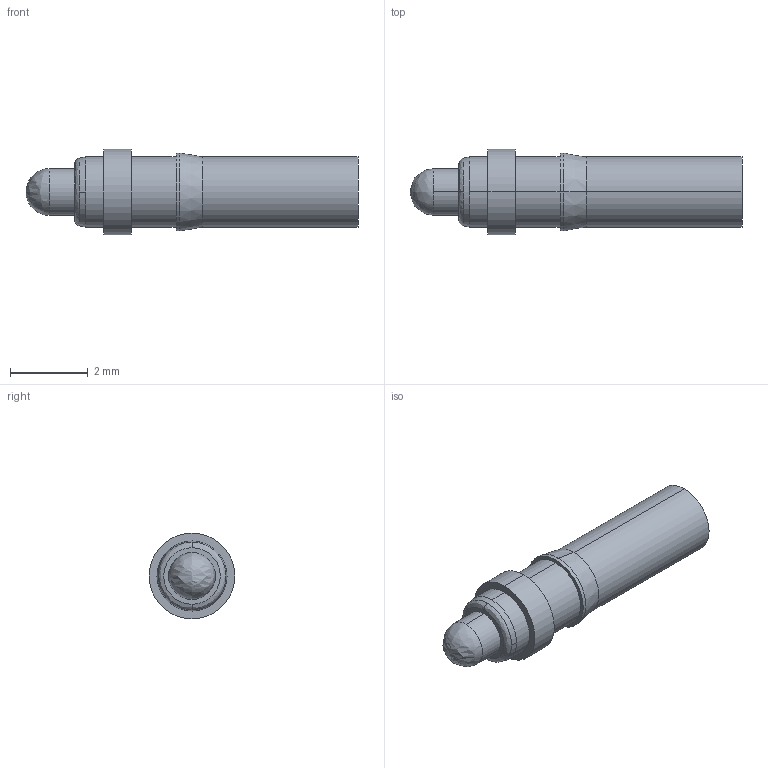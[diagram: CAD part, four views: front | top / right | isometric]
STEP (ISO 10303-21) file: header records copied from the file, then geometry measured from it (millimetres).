
FILE_DESCRIPTION (( 'STEP AP214' ), '1' );
FILE_NAME ('PD17JS.STEP', '2021-07-14T15:03:53', ( '' ), ( '' ), 'SwSTEP 2.0', 'SolidWorks 2021', '' );
FILE_SCHEMA (( 'AUTOMOTIVE_DESIGN' ));
Length unit declared in the file: millimetre
Products named in the file (1): PD17JS
Bounding box: 8.52 x 2.2 x 2.2 mm (x, y, z)
Volume: 19.5 mm3; surface area: 59.4 mm2
Topology: 1 solids, 1 shells, 28 faces, 62 edges, 37 vertices
Faces by surface type: cylinder 14, cone 6, plane 5, bspline 3
Entity records: 825 total; most frequent: CARTESIAN_POINT 175, DIRECTION 144, ORIENTED_EDGE 116, AXIS2_PLACEMENT_3D 62, EDGE_CURVE 58, VERTEX_POINT 37, CIRCLE 36, EDGE_LOOP 33
